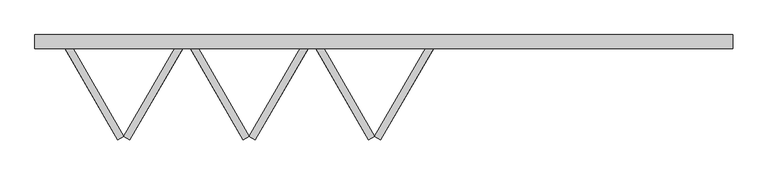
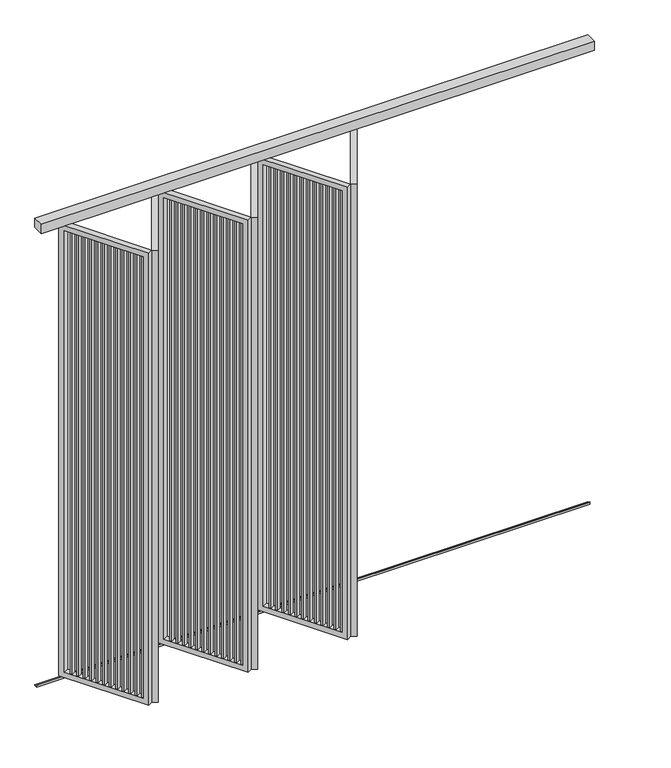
"""IFC4 building model written with IfcOpenShell, lengths in millimetres: proxy geometry, Renson_Amani_Loggia_Linea_Folding : Renson_Amani_Loggia_Linea_Folding."""

from ifc_helpers import new_model, si_unit, frame, origin, place, context, project, spatial, polyline, outline, extrude, source, transform, mapped, element, save


def generic_models_d005b666(model_context):
    return source(origin(), model_context, "Body", "SweptSolid", [
        extrude(outline(polyline([(2107.7211432, 547.0745344), (2133.7019053, 532.0745344), (2126.2019053, 519.0841534), (2100.2211432, 534.0841534), (2107.7211432, 547.0745344)])), frame((0.0, 0.0, 85.0), z_axis=(0.0, 0.0, 1.0), x_axis=(1.0, 0.0, 0.0)), (0.0, 0.0, 1.0), 3375.0),
        extrude(outline(polyline([(2084.2211432, 506.3713404), (2110.2019053, 491.3713404), (2102.7019053, 478.3809594), (2076.7211432, 493.3809594), (2084.2211432, 506.3713404)])), frame((0.0, 0.0, 85.0), z_axis=(0.0, 0.0, 1.0), x_axis=(1.0, 0.0, 0.0)), (0.0, 0.0, 1.0), 3375.0),
        extrude(outline(polyline([(2060.7211432, 465.6681465), (2086.7019053, 450.6681465), (2079.2019053, 437.6777654), (2053.2211432, 452.6777654), (2060.7211432, 465.6681465)])), frame((0.0, 0.0, 85.0), z_axis=(0.0, 0.0, 1.0), x_axis=(1.0, 0.0, 0.0)), (0.0, 0.0, 1.0), 3375.0),
        extrude(outline(polyline([(2037.2211432, 424.9649525), (2063.2019053, 409.9649525), (2055.7019053, 396.9745714), (2029.7211432, 411.9745714), (2037.2211432, 424.9649525)])), frame((0.0, 0.0, 85.0), z_axis=(0.0, 0.0, 1.0), x_axis=(1.0, 0.0, 0.0)), (0.0, 0.0, 1.0), 3375.0),
        extrude(outline(polyline([(2013.7211432, 384.2617585), (2039.7019053, 369.2617585), (2032.2019053, 356.2713774), (2006.2211432, 371.2713774), (2013.7211432, 384.2617585)])), frame((0.0, 0.0, 85.0), z_axis=(0.0, 0.0, 1.0), x_axis=(1.0, 0.0, 0.0)), (0.0, 0.0, 1.0), 3375.0),
        extrude(outline(polyline([(1990.2211432, 343.5585645), (2016.2019053, 328.5585645), (2008.7019053, 315.5681835), (1982.7211432, 330.5681835), (1990.2211432, 343.5585645)])), frame((0.0, 0.0, 85.0), z_axis=(0.0, 0.0, 1.0), x_axis=(1.0, 0.0, 0.0)), (0.0, 0.0, 1.0), 3375.0),
        extrude(outline(polyline([(1966.7211432, 302.8553705), (1992.7019053, 287.8553705), (1985.2019053, 274.8649895), (1959.2211432, 289.8649895), (1966.7211432, 302.8553705)])), frame((0.0, 0.0, 85.0), z_axis=(0.0, 0.0, 1.0), x_axis=(1.0, 0.0, 0.0)), (0.0, 0.0, 1.0), 3375.0),
        extrude(outline(polyline([(1943.2211432, 262.1521766), (1969.2019053, 247.1521766), (1961.7019053, 234.1617955), (1935.7211432, 249.1617955), (1943.2211432, 262.1521766)])), frame((0.0, 0.0, 85.0), z_axis=(0.0, 0.0, 1.0), x_axis=(1.0, 0.0, 0.0)), (0.0, 0.0, 1.0), 3375.0),
        extrude(outline(polyline([(1919.7211432, 221.4489826), (1945.7019053, 206.4489826), (1938.2019053, 193.4586015), (1912.2211432, 208.4586015), (1919.7211432, 221.4489826)])), frame((0.0, 0.0, 85.0), z_axis=(0.0, 0.0, 1.0), x_axis=(1.0, 0.0, 0.0)), (0.0, 0.0, 1.0), 3375.0),
        extrude(outline(polyline([(1896.2211432, 180.7457886), (1922.2019053, 165.7457886), (1914.7019053, 152.7554076), (1888.7211432, 167.7554076), (1896.2211432, 180.7457886)])), frame((0.0, 0.0, 85.0), z_axis=(0.0, 0.0, 1.0), x_axis=(1.0, 0.0, 0.0)), (0.0, 0.0, 1.0), 3375.0),
        extrude(outline(polyline([(1872.7211432, 140.0425946), (1898.7019053, 125.0425946), (1891.2019053, 112.0522136), (1865.2211432, 127.0522136), (1872.7211432, 140.0425946)])), frame((0.0, 0.0, 85.0), z_axis=(0.0, 0.0, 1.0), x_axis=(1.0, 0.0, 0.0)), (0.0, 0.0, 1.0), 3375.0),
        extrude(outline(polyline([(1849.2211432, 99.3394007), (1875.2019053, 84.3394007), (1867.7019053, 71.3490196), (1841.7211432, 86.3490196), (1849.2211432, 99.3394007)])), frame((0.0, 0.0, 85.0), z_axis=(0.0, 0.0, 1.0), x_axis=(1.0, 0.0, 0.0)), (0.0, 0.0, 1.0), 3375.0),
        extrude(outline(polyline([(3415.0, -40.0), (-40.0, -40.0), (-40.0, 610.0), (3415.0, 610.0), (3415.0, -40.0)]), holes=[polyline([(3375.0, 570.0), (0.0, 570.0), (0.0, 0.0), (3375.0, 0.0), (3375.0, 570.0)])]), frame((1852.2820323, 34.6410162, 85.0), z_axis=(-0.8660254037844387, 0.49999999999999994, 0.0), x_axis=(0.0, 0.0, 1.0)), (0.0, 0.0, 1.0), 40.0),
        extrude(outline(polyline([(1774.3429214, 50.841978), (1748.3621593, 35.841978), (1740.8621593, 48.8323591), (1766.8429214, 63.8323591), (1774.3429214, 50.841978)])), frame((0.0, 0.0, 85.0), z_axis=(0.0, 0.0, 1.0), x_axis=(1.0, 0.0, 0.0)), (0.0, 0.0, 1.0), 3375.0),
        extrude(outline(polyline([(1750.8429214, 91.545172), (1724.8621593, 76.545172), (1717.3621593, 89.5355531), (1743.3429214, 104.5355531), (1750.8429214, 91.545172)])), frame((0.0, 0.0, 85.0), z_axis=(0.0, 0.0, 1.0), x_axis=(1.0, 0.0, 0.0)), (0.0, 0.0, 1.0), 3375.0),
        extrude(outline(polyline([(1727.3429214, 132.248366), (1701.3621593, 117.248366), (1693.8621593, 130.2387471), (1719.8429214, 145.2387471), (1727.3429214, 132.248366)])), frame((0.0, 0.0, 85.0), z_axis=(0.0, 0.0, 1.0), x_axis=(1.0, 0.0, 0.0)), (0.0, 0.0, 1.0), 3375.0),
        extrude(outline(polyline([(1703.8429214, 172.95156), (1677.8621593, 157.95156), (1670.3621593, 170.941941), (1696.3429214, 185.941941), (1703.8429214, 172.95156)])), frame((0.0, 0.0, 85.0), z_axis=(0.0, 0.0, 1.0), x_axis=(1.0, 0.0, 0.0)), (0.0, 0.0, 1.0), 3375.0),
        extrude(outline(polyline([(1680.3429214, 213.654754), (1654.3621593, 198.654754), (1646.8621593, 211.645135), (1672.8429214, 226.645135), (1680.3429214, 213.654754)])), frame((0.0, 0.0, 85.0), z_axis=(0.0, 0.0, 1.0), x_axis=(1.0, 0.0, 0.0)), (0.0, 0.0, 1.0), 3375.0),
        extrude(outline(polyline([(1656.8429214, 254.3579479), (1630.8621593, 239.3579479), (1623.3621593, 252.348329), (1649.3429214, 267.348329), (1656.8429214, 254.3579479)])), frame((0.0, 0.0, 85.0), z_axis=(0.0, 0.0, 1.0), x_axis=(1.0, 0.0, 0.0)), (0.0, 0.0, 1.0), 3375.0),
        extrude(outline(polyline([(1633.3429214, 295.0611419), (1607.3621593, 280.0611419), (1599.8621593, 293.051523), (1625.8429214, 308.051523), (1633.3429214, 295.0611419)])), frame((0.0, 0.0, 85.0), z_axis=(0.0, 0.0, 1.0), x_axis=(1.0, 0.0, 0.0)), (0.0, 0.0, 1.0), 3375.0),
        extrude(outline(polyline([(1609.8429214, 335.7643359), (1583.8621593, 320.7643359), (1576.3621593, 333.7547169), (1602.3429214, 348.7547169), (1609.8429214, 335.7643359)])), frame((0.0, 0.0, 85.0), z_axis=(0.0, 0.0, 1.0), x_axis=(1.0, 0.0, 0.0)), (0.0, 0.0, 1.0), 3375.0),
        extrude(outline(polyline([(1586.3429214, 376.4675299), (1560.3621593, 361.4675299), (1552.8621593, 374.4579109), (1578.8429214, 389.4579109), (1586.3429214, 376.4675299)])), frame((0.0, 0.0, 85.0), z_axis=(0.0, 0.0, 1.0), x_axis=(1.0, 0.0, 0.0)), (0.0, 0.0, 1.0), 3375.0),
        extrude(outline(polyline([(1562.8429214, 417.1707238), (1536.8621593, 402.1707238), (1529.3621593, 415.1611049), (1555.3429214, 430.1611049), (1562.8429214, 417.1707238)])), frame((0.0, 0.0, 85.0), z_axis=(0.0, 0.0, 1.0), x_axis=(1.0, 0.0, 0.0)), (0.0, 0.0, 1.0), 3375.0),
        extrude(outline(polyline([(1539.3429214, 457.8739178), (1513.3621593, 442.8739178), (1505.8621593, 455.8642989), (1531.8429214, 470.8642989), (1539.3429214, 457.8739178)])), frame((0.0, 0.0, 85.0), z_axis=(0.0, 0.0, 1.0), x_axis=(1.0, 0.0, 0.0)), (0.0, 0.0, 1.0), 3375.0),
        extrude(outline(polyline([(1515.8429214, 498.5771118), (1489.8621593, 483.5771118), (1482.3621593, 496.5674929), (1508.3429214, 511.5674929), (1515.8429214, 498.5771118)])), frame((0.0, 0.0, 85.0), z_axis=(0.0, 0.0, 1.0), x_axis=(1.0, 0.0, 0.0)), (0.0, 0.0, 1.0), 3375.0),
        extrude(outline(polyline([(3415.0, -40.0), (-40.0, -40.0), (-40.0, 610.0), (3415.0, 610.0), (3415.0, -40.0)]), holes=[polyline([(3375.0, 570.0), (0.0, 570.0), (0.0, 0.0), (3375.0, 0.0), (3375.0, 570.0)])]), frame((1458.2820323, 528.2754963, 85.0), z_axis=(0.866025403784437, 0.500000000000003, 0.0), x_axis=(0.0, 0.0, 1.0)), (0.0, 0.0, 1.0), 40.0),
        extrude(outline(polyline([(1388.7211432, 547.0745344), (1414.7019053, 532.0745344), (1407.2019053, 519.0841534), (1381.2211432, 534.0841534), (1388.7211432, 547.0745344)])), frame((0.0, 0.0, 85.0), z_axis=(0.0, 0.0, 1.0), x_axis=(1.0, 0.0, 0.0)), (0.0, 0.0, 1.0), 3375.0),
        extrude(outline(polyline([(1365.2211432, 506.3713404), (1391.2019053, 491.3713404), (1383.7019053, 478.3809594), (1357.7211432, 493.3809594), (1365.2211432, 506.3713404)])), frame((0.0, 0.0, 85.0), z_axis=(0.0, 0.0, 1.0), x_axis=(1.0, 0.0, 0.0)), (0.0, 0.0, 1.0), 3375.0),
        extrude(outline(polyline([(1341.7211432, 465.6681465), (1367.7019053, 450.6681465), (1360.2019053, 437.6777654), (1334.2211432, 452.6777654), (1341.7211432, 465.6681465)])), frame((0.0, 0.0, 85.0), z_axis=(0.0, 0.0, 1.0), x_axis=(1.0, 0.0, 0.0)), (0.0, 0.0, 1.0), 3375.0),
        extrude(outline(polyline([(1318.2211432, 424.9649525), (1344.2019053, 409.9649525), (1336.7019053, 396.9745714), (1310.7211432, 411.9745714), (1318.2211432, 424.9649525)])), frame((0.0, 0.0, 85.0), z_axis=(0.0, 0.0, 1.0), x_axis=(1.0, 0.0, 0.0)), (0.0, 0.0, 1.0), 3375.0),
        extrude(outline(polyline([(1294.7211432, 384.2617585), (1320.7019053, 369.2617585), (1313.2019053, 356.2713774), (1287.2211432, 371.2713774), (1294.7211432, 384.2617585)])), frame((0.0, 0.0, 85.0), z_axis=(0.0, 0.0, 1.0), x_axis=(1.0, 0.0, 0.0)), (0.0, 0.0, 1.0), 3375.0),
        extrude(outline(polyline([(1271.2211432, 343.5585645), (1297.2019053, 328.5585645), (1289.7019053, 315.5681835), (1263.7211432, 330.5681835), (1271.2211432, 343.5585645)])), frame((0.0, 0.0, 85.0), z_axis=(0.0, 0.0, 1.0), x_axis=(1.0, 0.0, 0.0)), (0.0, 0.0, 1.0), 3375.0),
        extrude(outline(polyline([(1247.7211432, 302.8553705), (1273.7019053, 287.8553705), (1266.2019053, 274.8649895), (1240.2211432, 289.8649895), (1247.7211432, 302.8553705)])), frame((0.0, 0.0, 85.0), z_axis=(0.0, 0.0, 1.0), x_axis=(1.0, 0.0, 0.0)), (0.0, 0.0, 1.0), 3375.0),
        extrude(outline(polyline([(1224.2211432, 262.1521766), (1250.2019053, 247.1521766), (1242.7019053, 234.1617955), (1216.7211432, 249.1617955), (1224.2211432, 262.1521766)])), frame((0.0, 0.0, 85.0), z_axis=(0.0, 0.0, 1.0), x_axis=(1.0, 0.0, 0.0)), (0.0, 0.0, 1.0), 3375.0),
        extrude(outline(polyline([(1200.7211432, 221.4489826), (1226.7019053, 206.4489826), (1219.2019053, 193.4586015), (1193.2211432, 208.4586015), (1200.7211432, 221.4489826)])), frame((0.0, 0.0, 85.0), z_axis=(0.0, 0.0, 1.0), x_axis=(1.0, 0.0, 0.0)), (0.0, 0.0, 1.0), 3375.0),
        extrude(outline(polyline([(1177.2211432, 180.7457886), (1203.2019053, 165.7457886), (1195.7019053, 152.7554076), (1169.7211432, 167.7554076), (1177.2211432, 180.7457886)])), frame((0.0, 0.0, 85.0), z_axis=(0.0, 0.0, 1.0), x_axis=(1.0, 0.0, 0.0)), (0.0, 0.0, 1.0), 3375.0),
        extrude(outline(polyline([(1153.7211432, 140.0425946), (1179.7019053, 125.0425946), (1172.2019053, 112.0522136), (1146.2211432, 127.0522136), (1153.7211432, 140.0425946)])), frame((0.0, 0.0, 85.0), z_axis=(0.0, 0.0, 1.0), x_axis=(1.0, 0.0, 0.0)), (0.0, 0.0, 1.0), 3375.0),
        extrude(outline(polyline([(1130.2211432, 99.3394007), (1156.2019053, 84.3394007), (1148.7019053, 71.3490196), (1122.7211432, 86.3490196), (1130.2211432, 99.3394007)])), frame((0.0, 0.0, 85.0), z_axis=(0.0, 0.0, 1.0), x_axis=(1.0, 0.0, 0.0)), (0.0, 0.0, 1.0), 3375.0),
        extrude(outline(polyline([(3415.0, -40.0), (-40.0, -40.0), (-40.0, 610.0), (3415.0, 610.0), (3415.0, -40.0)]), holes=[polyline([(3375.0, 570.0), (0.0, 570.0), (0.0, 0.0), (3375.0, 0.0), (3375.0, 570.0)])]), frame((1133.2820323, 34.6410162, 85.0), z_axis=(-0.8660254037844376, 0.5000000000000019, 0.0), x_axis=(0.0, 0.0, 1.0)), (0.0, 0.0, 1.0), 40.0),
        extrude(outline(polyline([(1055.3429214, 50.841978), (1029.3621593, 35.841978), (1021.8621593, 48.8323591), (1047.8429214, 63.8323591), (1055.3429214, 50.841978)])), frame((0.0, 0.0, 85.0), z_axis=(0.0, 0.0, 1.0), x_axis=(1.0, 0.0, 0.0)), (0.0, 0.0, 1.0), 3375.0),
        extrude(outline(polyline([(1031.8429214, 91.545172), (1005.8621593, 76.545172), (998.3621593, 89.5355531), (1024.3429214, 104.5355531), (1031.8429214, 91.545172)])), frame((0.0, 0.0, 85.0), z_axis=(0.0, 0.0, 1.0), x_axis=(1.0, 0.0, 0.0)), (0.0, 0.0, 1.0), 3375.0),
        extrude(outline(polyline([(1008.3429214, 132.248366), (982.3621593, 117.248366), (974.8621593, 130.2387471), (1000.8429214, 145.2387471), (1008.3429214, 132.248366)])), frame((0.0, 0.0, 85.0), z_axis=(0.0, 0.0, 1.0), x_axis=(1.0, 0.0, 0.0)), (0.0, 0.0, 1.0), 3375.0),
        extrude(outline(polyline([(984.8429214, 172.95156), (958.8621593, 157.95156), (951.3621593, 170.941941), (977.3429214, 185.941941), (984.8429214, 172.95156)])), frame((0.0, 0.0, 85.0), z_axis=(0.0, 0.0, 1.0), x_axis=(1.0, 0.0, 0.0)), (0.0, 0.0, 1.0), 3375.0),
        extrude(outline(polyline([(961.3429214, 213.654754), (935.3621593, 198.654754), (927.8621593, 211.645135), (953.8429214, 226.645135), (961.3429214, 213.654754)])), frame((0.0, 0.0, 85.0), z_axis=(0.0, 0.0, 1.0), x_axis=(1.0, 0.0, 0.0)), (0.0, 0.0, 1.0), 3375.0),
        extrude(outline(polyline([(937.8429214, 254.3579479), (911.8621593, 239.3579479), (904.3621593, 252.348329), (930.3429214, 267.348329), (937.8429214, 254.3579479)])), frame((0.0, 0.0, 85.0), z_axis=(0.0, 0.0, 1.0), x_axis=(1.0, 0.0, 0.0)), (0.0, 0.0, 1.0), 3375.0),
        extrude(outline(polyline([(914.3429214, 295.0611419), (888.3621593, 280.0611419), (880.8621593, 293.051523), (906.8429214, 308.051523), (914.3429214, 295.0611419)])), frame((0.0, 0.0, 85.0), z_axis=(0.0, 0.0, 1.0), x_axis=(1.0, 0.0, 0.0)), (0.0, 0.0, 1.0), 3375.0),
        extrude(outline(polyline([(890.8429214, 335.7643359), (864.8621593, 320.7643359), (857.3621593, 333.7547169), (883.3429214, 348.7547169), (890.8429214, 335.7643359)])), frame((0.0, 0.0, 85.0), z_axis=(0.0, 0.0, 1.0), x_axis=(1.0, 0.0, 0.0)), (0.0, 0.0, 1.0), 3375.0),
        extrude(outline(polyline([(867.3429214, 376.4675299), (841.3621593, 361.4675299), (833.8621593, 374.4579109), (859.8429214, 389.4579109), (867.3429214, 376.4675299)])), frame((0.0, 0.0, 85.0), z_axis=(0.0, 0.0, 1.0), x_axis=(1.0, 0.0, 0.0)), (0.0, 0.0, 1.0), 3375.0),
        extrude(outline(polyline([(843.8429214, 417.1707238), (817.8621593, 402.1707238), (810.3621593, 415.1611049), (836.3429214, 430.1611049), (843.8429214, 417.1707238)])), frame((0.0, 0.0, 85.0), z_axis=(0.0, 0.0, 1.0), x_axis=(1.0, 0.0, 0.0)), (0.0, 0.0, 1.0), 3375.0),
        extrude(outline(polyline([(820.3429214, 457.8739178), (794.3621593, 442.8739178), (786.8621593, 455.8642989), (812.8429214, 470.8642989), (820.3429214, 457.8739178)])), frame((0.0, 0.0, 85.0), z_axis=(0.0, 0.0, 1.0), x_axis=(1.0, 0.0, 0.0)), (0.0, 0.0, 1.0), 3375.0),
        extrude(outline(polyline([(796.8429214, 498.5771118), (770.8621593, 483.5771118), (763.3621593, 496.5674929), (789.3429214, 511.5674929), (796.8429214, 498.5771118)])), frame((0.0, 0.0, 85.0), z_axis=(0.0, 0.0, 1.0), x_axis=(1.0, 0.0, 0.0)), (0.0, 0.0, 1.0), 3375.0),
        extrude(outline(polyline([(3415.0, -40.0), (-40.0, -40.0), (-40.0, 610.0), (3415.0, 610.0), (3415.0, -40.0)]), holes=[polyline([(3375.0, 570.0), (0.0, 570.0), (0.0, 0.0), (3375.0, 0.0), (3375.0, 570.0)])]), frame((739.2820323, 528.2754963, 85.0), z_axis=(0.8660254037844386, 0.5000000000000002, 0.0), x_axis=(0.0, 0.0, 1.0)), (0.0, 0.0, 1.0), 40.0),
        extrude(outline(polyline([(669.7211432, 547.0745344), (695.7019053, 532.0745344), (688.2019053, 519.0841534), (662.2211432, 534.0841534), (669.7211432, 547.0745344)])), frame((0.0, 0.0, 85.0), z_axis=(0.0, 0.0, 1.0), x_axis=(1.0, 0.0, 0.0)), (0.0, 0.0, 1.0), 3375.0),
        extrude(outline(polyline([(646.2211432, 506.3713404), (672.2019053, 491.3713404), (664.7019053, 478.3809594), (638.7211432, 493.3809594), (646.2211432, 506.3713404)])), frame((0.0, 0.0, 85.0), z_axis=(0.0, 0.0, 1.0), x_axis=(1.0, 0.0, 0.0)), (0.0, 0.0, 1.0), 3375.0),
        extrude(outline(polyline([(622.7211432, 465.6681465), (648.7019053, 450.6681465), (641.2019053, 437.6777654), (615.2211432, 452.6777654), (622.7211432, 465.6681465)])), frame((0.0, 0.0, 85.0), z_axis=(0.0, 0.0, 1.0), x_axis=(1.0, 0.0, 0.0)), (0.0, 0.0, 1.0), 3375.0),
        extrude(outline(polyline([(599.2211432, 424.9649525), (625.2019053, 409.9649525), (617.7019053, 396.9745714), (591.7211432, 411.9745714), (599.2211432, 424.9649525)])), frame((0.0, 0.0, 85.0), z_axis=(0.0, 0.0, 1.0), x_axis=(1.0, 0.0, 0.0)), (0.0, 0.0, 1.0), 3375.0),
        extrude(outline(polyline([(575.7211432, 384.2617585), (601.7019053, 369.2617585), (594.2019053, 356.2713774), (568.2211432, 371.2713774), (575.7211432, 384.2617585)])), frame((0.0, 0.0, 85.0), z_axis=(0.0, 0.0, 1.0), x_axis=(1.0, 0.0, 0.0)), (0.0, 0.0, 1.0), 3375.0),
        extrude(outline(polyline([(552.2211432, 343.5585645), (578.2019053, 328.5585645), (570.7019053, 315.5681835), (544.7211432, 330.5681835), (552.2211432, 343.5585645)])), frame((0.0, 0.0, 85.0), z_axis=(0.0, 0.0, 1.0), x_axis=(1.0, 0.0, 0.0)), (0.0, 0.0, 1.0), 3375.0),
        extrude(outline(polyline([(528.7211432, 302.8553705), (554.7019053, 287.8553705), (547.2019053, 274.8649895), (521.2211432, 289.8649895), (528.7211432, 302.8553705)])), frame((0.0, 0.0, 85.0), z_axis=(0.0, 0.0, 1.0), x_axis=(1.0, 0.0, 0.0)), (0.0, 0.0, 1.0), 3375.0),
        extrude(outline(polyline([(505.2211432, 262.1521766), (531.2019053, 247.1521766), (523.7019053, 234.1617955), (497.7211432, 249.1617955), (505.2211432, 262.1521766)])), frame((0.0, 0.0, 85.0), z_axis=(0.0, 0.0, 1.0), x_axis=(1.0, 0.0, 0.0)), (0.0, 0.0, 1.0), 3375.0),
        extrude(outline(polyline([(481.7211432, 221.4489826), (507.7019053, 206.4489826), (500.2019053, 193.4586015), (474.2211432, 208.4586015), (481.7211432, 221.4489826)])), frame((0.0, 0.0, 85.0), z_axis=(0.0, 0.0, 1.0), x_axis=(1.0, 0.0, 0.0)), (0.0, 0.0, 1.0), 3375.0),
        extrude(outline(polyline([(458.2211432, 180.7457886), (484.2019053, 165.7457886), (476.7019053, 152.7554076), (450.7211432, 167.7554076), (458.2211432, 180.7457886)])), frame((0.0, 0.0, 85.0), z_axis=(0.0, 0.0, 1.0), x_axis=(1.0, 0.0, 0.0)), (0.0, 0.0, 1.0), 3375.0),
        extrude(outline(polyline([(434.7211432, 140.0425946), (460.7019053, 125.0425946), (453.2019053, 112.0522136), (427.2211432, 127.0522136), (434.7211432, 140.0425946)])), frame((0.0, 0.0, 85.0), z_axis=(0.0, 0.0, 1.0), x_axis=(1.0, 0.0, 0.0)), (0.0, 0.0, 1.0), 3375.0),
        extrude(outline(polyline([(411.2211432, 99.3394007), (437.2019053, 84.3394007), (429.7019053, 71.3490196), (403.7211432, 86.3490196), (411.2211432, 99.3394007)])), frame((0.0, 0.0, 85.0), z_axis=(0.0, 0.0, 1.0), x_axis=(1.0, 0.0, 0.0)), (0.0, 0.0, 1.0), 3375.0),
        extrude(outline(polyline([(3415.0, -40.0), (-40.0, -40.0), (-40.0, 610.0), (3415.0, 610.0), (3415.0, -40.0)]), holes=[polyline([(3375.0, 570.0), (0.0, 570.0), (0.0, 0.0), (3375.0, 0.0), (3375.0, 570.0)])]), frame((414.2820323, 34.6410162, 85.0), z_axis=(-0.8660254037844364, 0.5000000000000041, 0.0), x_axis=(0.0, 0.0, 1.0)), (0.0, 0.0, 1.0), 40.0),
        extrude(outline(polyline([(336.0608891, 50.841978), (310.080127, 35.841978), (302.580127, 48.8323591), (328.5608891, 63.8323591), (336.0608891, 50.841978)])), frame((0.0, 0.0, 85.0), z_axis=(0.0, 0.0, 1.0), x_axis=(1.0, 0.0, 0.0)), (0.0, 0.0, 1.0), 3375.0),
        extrude(outline(polyline([(312.5608891, 91.545172), (286.580127, 76.545172), (279.080127, 89.5355531), (305.0608891, 104.5355531), (312.5608891, 91.545172)])), frame((0.0, 0.0, 85.0), z_axis=(0.0, 0.0, 1.0), x_axis=(1.0, 0.0, 0.0)), (0.0, 0.0, 1.0), 3375.0),
        extrude(outline(polyline([(289.0608891, 132.248366), (263.080127, 117.248366), (255.580127, 130.2387471), (281.5608891, 145.2387471), (289.0608891, 132.248366)])), frame((0.0, 0.0, 85.0), z_axis=(0.0, 0.0, 1.0), x_axis=(1.0, 0.0, 0.0)), (0.0, 0.0, 1.0), 3375.0),
        extrude(outline(polyline([(265.5608891, 172.95156), (239.580127, 157.95156), (232.080127, 170.941941), (258.0608891, 185.941941), (265.5608891, 172.95156)])), frame((0.0, 0.0, 85.0), z_axis=(0.0, 0.0, 1.0), x_axis=(1.0, 0.0, 0.0)), (0.0, 0.0, 1.0), 3375.0),
        extrude(outline(polyline([(242.0608891, 213.654754), (216.080127, 198.654754), (208.580127, 211.645135), (234.5608891, 226.645135), (242.0608891, 213.654754)])), frame((0.0, 0.0, 85.0), z_axis=(0.0, 0.0, 1.0), x_axis=(1.0, 0.0, 0.0)), (0.0, 0.0, 1.0), 3375.0),
        extrude(outline(polyline([(218.5608891, 254.3579479), (192.580127, 239.3579479), (185.080127, 252.348329), (211.0608891, 267.348329), (218.5608891, 254.3579479)])), frame((0.0, 0.0, 85.0), z_axis=(0.0, 0.0, 1.0), x_axis=(1.0, 0.0, 0.0)), (0.0, 0.0, 1.0), 3375.0),
        extrude(outline(polyline([(195.0608891, 295.0611419), (169.080127, 280.0611419), (161.580127, 293.051523), (187.5608891, 308.051523), (195.0608891, 295.0611419)])), frame((0.0, 0.0, 85.0), z_axis=(0.0, 0.0, 1.0), x_axis=(1.0, 0.0, 0.0)), (0.0, 0.0, 1.0), 3375.0),
        extrude(outline(polyline([(171.5608891, 335.7643359), (145.580127, 320.7643359), (138.080127, 333.7547169), (164.0608891, 348.7547169), (171.5608891, 335.7643359)])), frame((0.0, 0.0, 85.0), z_axis=(0.0, 0.0, 1.0), x_axis=(1.0, 0.0, 0.0)), (0.0, 0.0, 1.0), 3375.0),
        extrude(outline(polyline([(148.0608891, 376.4675299), (122.080127, 361.4675299), (114.580127, 374.4579109), (140.5608891, 389.4579109), (148.0608891, 376.4675299)])), frame((0.0, 0.0, 85.0), z_axis=(0.0, 0.0, 1.0), x_axis=(1.0, 0.0, 0.0)), (0.0, 0.0, 1.0), 3375.0),
        extrude(outline(polyline([(124.5608891, 417.1707238), (98.580127, 402.1707238), (91.080127, 415.1611049), (117.0608891, 430.1611049), (124.5608891, 417.1707238)])), frame((0.0, 0.0, 85.0), z_axis=(0.0, 0.0, 1.0), x_axis=(1.0, 0.0, 0.0)), (0.0, 0.0, 1.0), 3375.0),
        extrude(outline(polyline([(101.0608891, 457.8739178), (75.080127, 442.8739178), (67.580127, 455.8642989), (93.5608891, 470.8642989), (101.0608891, 457.8739178)])), frame((0.0, 0.0, 85.0), z_axis=(0.0, 0.0, 1.0), x_axis=(1.0, 0.0, 0.0)), (0.0, 0.0, 1.0), 3375.0),
        extrude(outline(polyline([(77.5608891, 498.5771118), (51.580127, 483.5771118), (44.080127, 496.5674929), (70.0608891, 511.5674929), (77.5608891, 498.5771118)])), frame((0.0, 0.0, 85.0), z_axis=(0.0, 0.0, 1.0), x_axis=(1.0, 0.0, 0.0)), (0.0, 0.0, 1.0), 3375.0),
        extrude(outline(polyline([(3415.0, -40.0), (-40.0, -40.0), (-40.0, 610.0), (3415.0, 610.0), (3415.0, -40.0)]), holes=[polyline([(3375.0, 570.0), (0.0, 570.0), (0.0, 0.0), (3375.0, 0.0), (3375.0, 570.0)])]), frame((20.0, 528.2754963, 85.0), z_axis=(0.8660254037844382, 0.5000000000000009, 0.0), x_axis=(0.0, 0.0, 1.0)), (0.0, 0.0, 1.0), 40.0),
        extrude(outline(polyline([(576.9165125, 15.0), (579.9165125, 15.0), (579.9165125, 3.0), (602.9165125, 3.0), (602.9165125, 0.0), (576.9165125, 0.0), (576.9165125, 15.0)])), frame((-150.0, 0.0, 0.0), z_axis=(1.0, 0.0, 0.0), x_axis=(0.0, 1.0, 0.0)), (0.0, 0.0, 1.0), 4000.0),
        extrude(outline(polyline([(3850.0, 602.9165125), (3850.0, 522.9165125), (-150.0, 522.9165125), (-150.0, 602.9165125), (3850.0, 602.9165125)])), frame((0.0, 0.0, 3500.0), z_axis=(0.0, 0.0, 1.0), x_axis=(1.0, 0.0, 0.0)), (0.0, 0.0, 1.0), 70.0),
    ])


if __name__ == "__main__":
    model = new_model("IFC4")
    model_context = context("Model", 3, world=origin())
    ifc_project = project(units=[si_unit("LENGTHUNIT", "METRE", prefix="MILLI")], contexts=[model_context])
    site = spatial("IfcSite", under=ifc_project)
    building = spatial("IfcBuilding", under=site)
    placement = place(None, origin())
    generic_models_shape = generic_models_d005b666(model_context)
    element("IfcBuildingElementProxy", 1, Name="Renson_Amani_Loggia_Linea_Folding : Renson_Amani_Loggia_Linea_Folding", ObjectType="Renson_Amani_Loggia_Linea_Folding : Renson_Amani_Loggia_Linea_Folding", at=placement, inside=building, context=model_context, shape_type="MappedRepresentation", body=[
        mapped(generic_models_shape, transform((0.0, 0.0, 0.0), x_axis=(1.0, 0.0, 0.0), y_axis=(0.0, 1.0, 0.0), z_axis=(0.0, 0.0, 1.0))),
    ])
    save(model, "model.ifc")
